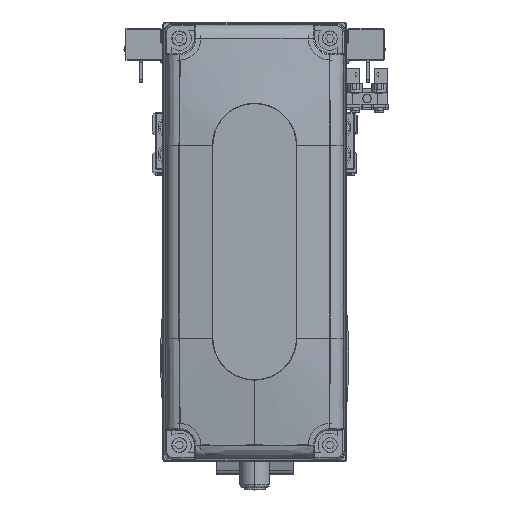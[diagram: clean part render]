
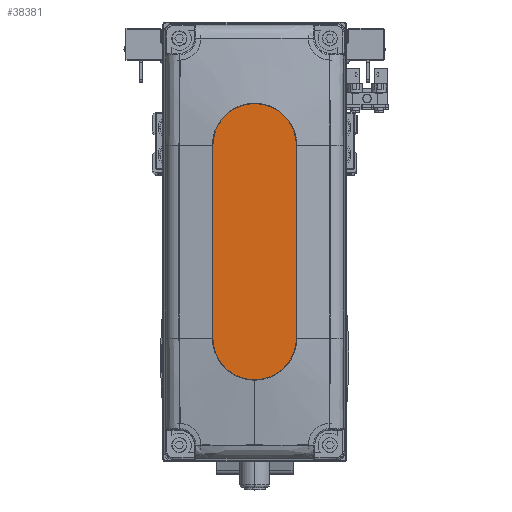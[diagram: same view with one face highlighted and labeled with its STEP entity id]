
A CAD part, top view. The second image highlights one B-rep face of the part: STEP entity #38381.
In plain terms, the highlighted planar face has unit normal (0, 0, 1).
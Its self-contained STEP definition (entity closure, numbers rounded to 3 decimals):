
#137 = DIRECTION ( 'NONE',  ( 1., 0., 0. ) ) ;
#1508 = AXIS2_PLACEMENT_3D ( 'NONE', #26782, #40708, #9416 ) ;
#2439 = CIRCLE ( 'NONE', #27953, 14. ) ;
#3143 = ORIENTED_EDGE ( 'NONE', *, *, #44368, .T. ) ;
#3262 = DIRECTION ( 'NONE',  ( 1., 0., 0. ) ) ;
#3912 = VECTOR ( 'NONE', #5775, 1000. ) ;
#4045 = EDGE_CURVE ( 'NONE', #35088, #6592, #23173, .T. ) ;
#4458 = EDGE_CURVE ( 'NONE', #6592, #39256, #25903, .T. ) ;
#5775 = DIRECTION ( 'NONE',  ( -1., 0., 0. ) ) ;
#6178 = AXIS2_PLACEMENT_3D ( 'NONE', #40843, #9549, #23510 ) ;
#6592 = VERTEX_POINT ( 'NONE', #28845 ) ;
#6675 = PLANE ( 'NONE',  #31400 ) ;
#8855 = CARTESIAN_POINT ( 'NONE',  ( -32., -14., 35. ) ) ;
#9416 = DIRECTION ( 'NONE',  ( 1., 0., 0. ) ) ;
#9549 = DIRECTION ( 'NONE',  ( 0., 0., 1. ) ) ;
#10872 = CARTESIAN_POINT ( 'NONE',  ( 32., 14., 35. ) ) ;
#15161 = EDGE_CURVE ( 'NONE', #18139, #20302, #21224, .T. ) ;
#17229 = VECTOR ( 'NONE', #22811, 1000. ) ;
#17519 = CARTESIAN_POINT ( 'NONE',  ( 32., 0., 35. ) ) ;
#18139 = VERTEX_POINT ( 'NONE', #21067 ) ;
#20302 = VERTEX_POINT ( 'NONE', #20994 ) ;
#20640 = CARTESIAN_POINT ( 'NONE',  ( 0., 0., 35. ) ) ;
#20994 = CARTESIAN_POINT ( 'NONE',  ( 46., 0., 35. ) ) ;
#21067 = CARTESIAN_POINT ( 'NONE',  ( 32., -14., 35. ) ) ;
#21224 = CIRCLE ( 'NONE', #1508, 14. ) ;
#22811 = DIRECTION ( 'NONE',  ( 1., 0., 0. ) ) ;
#22948 = EDGE_LOOP ( 'NONE', ( #40448, #28493, #3143, #36406, #36498 ) ) ;
#23173 = LINE ( 'NONE', #37085, #3912 ) ;
#23510 = DIRECTION ( 'NONE',  ( 1., 0., 0. ) ) ;
#25903 = CIRCLE ( 'NONE', #6178, 14. ) ;
#26100 = EDGE_CURVE ( 'NONE', #20302, #35088, #2439, .T. ) ;
#26782 = CARTESIAN_POINT ( 'NONE',  ( 32., 0., 35. ) ) ;
#27953 = AXIS2_PLACEMENT_3D ( 'NONE', #17519, #31456, #137 ) ;
#28443 = CARTESIAN_POINT ( 'NONE',  ( -32., -14., 35. ) ) ;
#28493 = ORIENTED_EDGE ( 'NONE', *, *, #4458, .T. ) ;
#28845 = CARTESIAN_POINT ( 'NONE',  ( -32., 14., 35. ) ) ;
#31400 = AXIS2_PLACEMENT_3D ( 'NONE', #20640, #34568, #3262 ) ;
#31456 = DIRECTION ( 'NONE',  ( 0., 0., 1. ) ) ;
#34568 = DIRECTION ( 'NONE',  ( 0., 0., 1. ) ) ;
#35088 = VERTEX_POINT ( 'NONE', #10872 ) ;
#36406 = ORIENTED_EDGE ( 'NONE', *, *, #15161, .T. ) ;
#36498 = ORIENTED_EDGE ( 'NONE', *, *, #26100, .T. ) ;
#37085 = CARTESIAN_POINT ( 'NONE',  ( -32., 14., 35. ) ) ;
#37990 = FACE_OUTER_BOUND ( 'NONE', #22948, .T. ) ;
#38381 = ADVANCED_FACE ( 'NONE', ( #37990 ), #6675, .T. ) ;
#39256 = VERTEX_POINT ( 'NONE', #28443 ) ;
#40148 = LINE ( 'NONE', #8855, #17229 ) ;
#40448 = ORIENTED_EDGE ( 'NONE', *, *, #4045, .T. ) ;
#40708 = DIRECTION ( 'NONE',  ( 0., 0., 1. ) ) ;
#40843 = CARTESIAN_POINT ( 'NONE',  ( -32., 0., 35. ) ) ;
#44368 = EDGE_CURVE ( 'NONE', #39256, #18139, #40148, .T. ) ;
